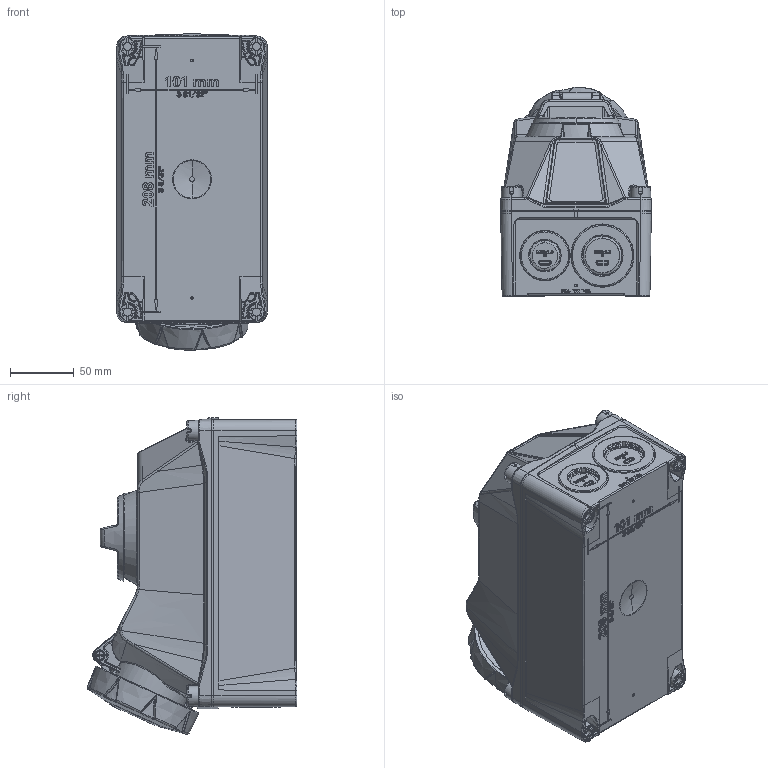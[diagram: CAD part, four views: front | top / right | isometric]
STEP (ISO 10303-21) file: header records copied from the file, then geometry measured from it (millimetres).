
FILE_DESCRIPTION((''),'2;1');
FILE_NAME('1137527_ASM_SW0002','2023-12-04T09:14:28',('kremer'),('MENNEKES'),'CREO PARAMETRIC BY PTC INC, 2019080','CREO PARAMETRIC BY PTC INC, 2019080','');
FILE_SCHEMA(('AUTOMOTIVE_DESIGN { 1 0 10303 214 1 1 1 1 }'));
Products named in the file (1): 1137527_ASM_SW0002
Bounding box: 118 x 164.36 x 247.95 mm (x, y, z)
Volume: 3133477.2 mm3; surface area: 171399.9 mm2
Topology: 1 solids, 1 shells, 4268 faces, 10638 edges, 6499 vertices
Faces by surface type: bspline 1258, plane 1156, cylinder 685, extrusion 620, torus 253, cone 159, sphere 137
Entity records: 214686 total; most frequent: CARTESIAN_POINT 92850, ORIENTED_EDGE 21240, DIRECTION 14279, EDGE_CURVE 10620, VERTEX_POINT 6500, PRESENTATION_STYLE_ASSIGNMENT 4887, STYLED_ITEM 4887, AXIS2_PLACEMENT_3D 4822
